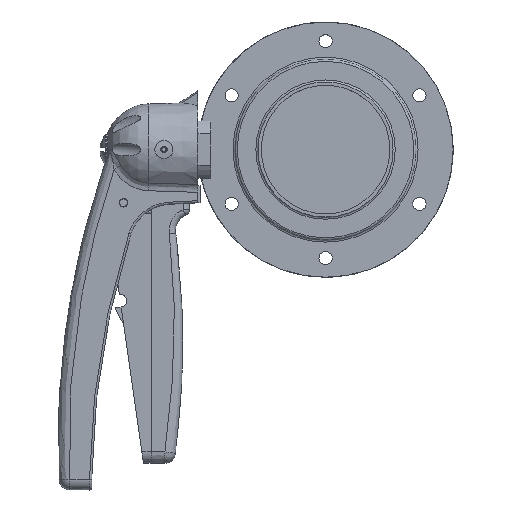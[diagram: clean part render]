
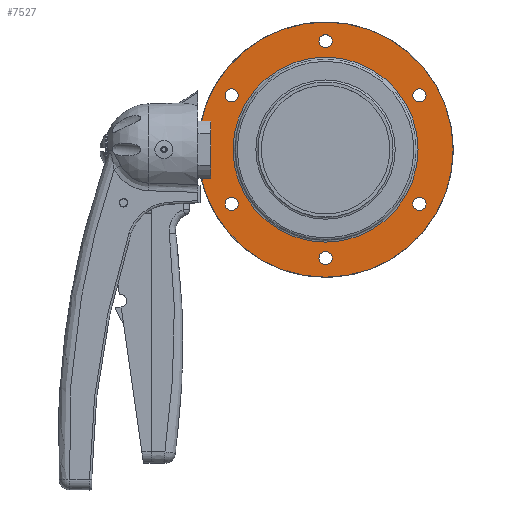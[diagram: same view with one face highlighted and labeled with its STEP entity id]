
A CAD part, top view. The second image highlights one B-rep face of the part: STEP entity #7527.
In plain terms, the highlighted planar face has unit normal (0, 0, 1).
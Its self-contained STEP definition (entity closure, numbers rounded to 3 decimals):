
#569=FACE_BOUND('',#1471,.T.);
#570=FACE_BOUND('',#1472,.T.);
#571=FACE_BOUND('',#1473,.T.);
#572=FACE_BOUND('',#1474,.T.);
#573=FACE_BOUND('',#1475,.T.);
#574=FACE_BOUND('',#1476,.T.);
#575=FACE_BOUND('',#1477,.T.);
#610=PLANE('',#8074);
#1038=FACE_OUTER_BOUND('',#1470,.T.);
#1470=EDGE_LOOP('',(#5237,#5238));
#1471=EDGE_LOOP('',(#5239,#5240));
#1472=EDGE_LOOP('',(#5241,#5242));
#1473=EDGE_LOOP('',(#5243,#5244));
#1474=EDGE_LOOP('',(#5245,#5246));
#1475=EDGE_LOOP('',(#5247,#5248));
#1476=EDGE_LOOP('',(#5249,#5250));
#1477=EDGE_LOOP('',(#5251,#5252));
#2985=CIRCLE('',#8020,3.1);
#2986=CIRCLE('',#8021,3.1);
#2988=CIRCLE('',#8024,3.1);
#2989=CIRCLE('',#8025,3.1);
#2991=CIRCLE('',#8028,3.1);
#2992=CIRCLE('',#8029,3.1);
#2994=CIRCLE('',#8032,3.1);
#2995=CIRCLE('',#8033,3.1);
#2997=CIRCLE('',#8036,3.1);
#2998=CIRCLE('',#8037,3.1);
#3000=CIRCLE('',#8040,3.1);
#3001=CIRCLE('',#8041,3.1);
#3023=CIRCLE('',#8072,43.5);
#3024=CIRCLE('',#8073,43.5);
#3025=CIRCLE('',#8075,60.);
#3026=CIRCLE('',#8076,60.);
#3292=VERTEX_POINT('',#10642);
#3293=VERTEX_POINT('',#10643);
#3295=VERTEX_POINT('',#10650);
#3296=VERTEX_POINT('',#10651);
#3298=VERTEX_POINT('',#10658);
#3299=VERTEX_POINT('',#10659);
#3301=VERTEX_POINT('',#10666);
#3302=VERTEX_POINT('',#10667);
#3304=VERTEX_POINT('',#10674);
#3305=VERTEX_POINT('',#10675);
#3307=VERTEX_POINT('',#10682);
#3308=VERTEX_POINT('',#10683);
#3329=VERTEX_POINT('',#10759);
#3330=VERTEX_POINT('',#10761);
#3331=VERTEX_POINT('',#10765);
#3332=VERTEX_POINT('',#10766);
#4021=EDGE_CURVE('',#3292,#3293,#2985,.T.);
#4022=EDGE_CURVE('',#3293,#3292,#2986,.T.);
#4025=EDGE_CURVE('',#3295,#3296,#2988,.T.);
#4026=EDGE_CURVE('',#3296,#3295,#2989,.T.);
#4029=EDGE_CURVE('',#3298,#3299,#2991,.T.);
#4030=EDGE_CURVE('',#3299,#3298,#2992,.T.);
#4033=EDGE_CURVE('',#3301,#3302,#2994,.T.);
#4034=EDGE_CURVE('',#3302,#3301,#2995,.T.);
#4037=EDGE_CURVE('',#3304,#3305,#2997,.T.);
#4038=EDGE_CURVE('',#3305,#3304,#2998,.T.);
#4041=EDGE_CURVE('',#3307,#3308,#3000,.T.);
#4042=EDGE_CURVE('',#3308,#3307,#3001,.T.);
#4071=EDGE_CURVE('',#3330,#3329,#3023,.T.);
#4072=EDGE_CURVE('',#3329,#3330,#3024,.T.);
#4073=EDGE_CURVE('',#3331,#3332,#3025,.T.);
#4074=EDGE_CURVE('',#3332,#3331,#3026,.T.);
#5237=ORIENTED_EDGE('',*,*,#4073,.F.);
#5238=ORIENTED_EDGE('',*,*,#4074,.F.);
#5239=ORIENTED_EDGE('',*,*,#4021,.T.);
#5240=ORIENTED_EDGE('',*,*,#4022,.T.);
#5241=ORIENTED_EDGE('',*,*,#4025,.T.);
#5242=ORIENTED_EDGE('',*,*,#4026,.T.);
#5243=ORIENTED_EDGE('',*,*,#4029,.T.);
#5244=ORIENTED_EDGE('',*,*,#4030,.T.);
#5245=ORIENTED_EDGE('',*,*,#4033,.T.);
#5246=ORIENTED_EDGE('',*,*,#4034,.T.);
#5247=ORIENTED_EDGE('',*,*,#4037,.T.);
#5248=ORIENTED_EDGE('',*,*,#4038,.T.);
#5249=ORIENTED_EDGE('',*,*,#4041,.T.);
#5250=ORIENTED_EDGE('',*,*,#4042,.T.);
#5251=ORIENTED_EDGE('',*,*,#4071,.T.);
#5252=ORIENTED_EDGE('',*,*,#4072,.T.);
#7527=ADVANCED_FACE('',(#1038,#569,#570,#571,#572,#573,#574,#575),#610,
 .T.);
#8020=AXIS2_PLACEMENT_3D('',#10644,#8719,#8720);
#8021=AXIS2_PLACEMENT_3D('',#10645,#8721,#8722);
#8024=AXIS2_PLACEMENT_3D('',#10652,#8728,#8729);
#8025=AXIS2_PLACEMENT_3D('',#10653,#8730,#8731);
#8028=AXIS2_PLACEMENT_3D('',#10660,#8737,#8738);
#8029=AXIS2_PLACEMENT_3D('',#10661,#8739,#8740);
#8032=AXIS2_PLACEMENT_3D('',#10668,#8746,#8747);
#8033=AXIS2_PLACEMENT_3D('',#10669,#8748,#8749);
#8036=AXIS2_PLACEMENT_3D('',#10676,#8755,#8756);
#8037=AXIS2_PLACEMENT_3D('',#10677,#8757,#8758);
#8040=AXIS2_PLACEMENT_3D('',#10684,#8764,#8765);
#8041=AXIS2_PLACEMENT_3D('',#10685,#8766,#8767);
#8072=AXIS2_PLACEMENT_3D('',#10762,#8834,#8835);
#8073=AXIS2_PLACEMENT_3D('',#10763,#8836,#8837);
#8074=AXIS2_PLACEMENT_3D('',#10764,#8838,#8839);
#8075=AXIS2_PLACEMENT_3D('',#10767,#8840,#8841);
#8076=AXIS2_PLACEMENT_3D('',#10768,#8842,#8843);
#8719=DIRECTION('center_axis',(0.,0.,-1.));
#8720=DIRECTION('ref_axis',(0.5,0.866,0.));
#8721=DIRECTION('center_axis',(0.,0.,-1.));
#8722=DIRECTION('ref_axis',(0.5,0.866,0.));
#8728=DIRECTION('center_axis',(0.,0.,-1.));
#8729=DIRECTION('ref_axis',(-0.5,0.866,0.));
#8730=DIRECTION('center_axis',(0.,0.,-1.));
#8731=DIRECTION('ref_axis',(-0.5,0.866,0.));
#8737=DIRECTION('center_axis',(0.,0.,-1.));
#8738=DIRECTION('ref_axis',(-1.,0.,0.));
#8739=DIRECTION('center_axis',(0.,0.,-1.));
#8740=DIRECTION('ref_axis',(-1.,0.,0.));
#8746=DIRECTION('center_axis',(0.,0.,-1.));
#8747=DIRECTION('ref_axis',(-0.5,-0.866,0.));
#8748=DIRECTION('center_axis',(0.,0.,-1.));
#8749=DIRECTION('ref_axis',(-0.5,-0.866,0.));
#8755=DIRECTION('center_axis',(0.,0.,-1.));
#8756=DIRECTION('ref_axis',(0.5,-0.866,0.));
#8757=DIRECTION('center_axis',(0.,0.,-1.));
#8758=DIRECTION('ref_axis',(0.5,-0.866,0.));
#8764=DIRECTION('center_axis',(0.,0.,-1.));
#8765=DIRECTION('ref_axis',(1.,0.,0.));
#8766=DIRECTION('center_axis',(0.,0.,-1.));
#8767=DIRECTION('ref_axis',(1.,0.,0.));
#8834=DIRECTION('center_axis',(0.,0.,-1.));
#8835=DIRECTION('ref_axis',(0.,1.,0.));
#8836=DIRECTION('center_axis',(0.,0.,-1.));
#8837=DIRECTION('ref_axis',(0.,1.,0.));
#8838=DIRECTION('center_axis',(0.,0.,1.));
#8839=DIRECTION('ref_axis',(1.,0.,0.));
#8840=DIRECTION('center_axis',(0.,0.,-1.));
#8841=DIRECTION('ref_axis',(0.,1.,0.));
#8842=DIRECTION('center_axis',(0.,0.,-1.));
#8843=DIRECTION('ref_axis',(0.,1.,0.));
#10642=CARTESIAN_POINT('',(1.55,-48.315,10.));
#10643=CARTESIAN_POINT('',(-1.55,-53.685,10.));
#10644=CARTESIAN_POINT('Origin',(0.,-51.,10.));
#10645=CARTESIAN_POINT('Origin',(0.,-51.,10.));
#10650=CARTESIAN_POINT('',(42.617,-22.815,10.));
#10651=CARTESIAN_POINT('',(45.717,-28.185,10.));
#10652=CARTESIAN_POINT('Origin',(44.167,-25.5,10.));
#10653=CARTESIAN_POINT('Origin',(44.167,-25.5,10.));
#10658=CARTESIAN_POINT('',(41.067,25.5,10.));
#10659=CARTESIAN_POINT('',(47.267,25.5,10.));
#10660=CARTESIAN_POINT('Origin',(44.167,25.5,10.));
#10661=CARTESIAN_POINT('Origin',(44.167,25.5,10.));
#10666=CARTESIAN_POINT('',(-1.55,48.315,10.));
#10667=CARTESIAN_POINT('',(1.55,53.685,10.));
#10668=CARTESIAN_POINT('Origin',(0.,51.,10.));
#10669=CARTESIAN_POINT('Origin',(0.,51.,10.));
#10674=CARTESIAN_POINT('',(-42.617,22.815,10.));
#10675=CARTESIAN_POINT('',(-45.717,28.185,10.));
#10676=CARTESIAN_POINT('Origin',(-44.167,25.5,10.));
#10677=CARTESIAN_POINT('Origin',(-44.167,25.5,10.));
#10682=CARTESIAN_POINT('',(-41.067,-25.5,10.));
#10683=CARTESIAN_POINT('',(-47.267,-25.5,10.));
#10684=CARTESIAN_POINT('Origin',(-44.167,-25.5,10.));
#10685=CARTESIAN_POINT('Origin',(-44.167,-25.5,10.));
#10759=CARTESIAN_POINT('',(43.5,0.,10.));
#10761=CARTESIAN_POINT('',(0.,43.5,10.));
#10762=CARTESIAN_POINT('Origin',(0.,0.,10.));
#10763=CARTESIAN_POINT('Origin',(0.,0.,10.));
#10764=CARTESIAN_POINT('Origin',(0.,51.75,10.));
#10765=CARTESIAN_POINT('',(0.,60.,10.));
#10766=CARTESIAN_POINT('',(0.,-60.,10.));
#10767=CARTESIAN_POINT('Origin',(0.,0.,10.));
#10768=CARTESIAN_POINT('Origin',(0.,0.,10.));
